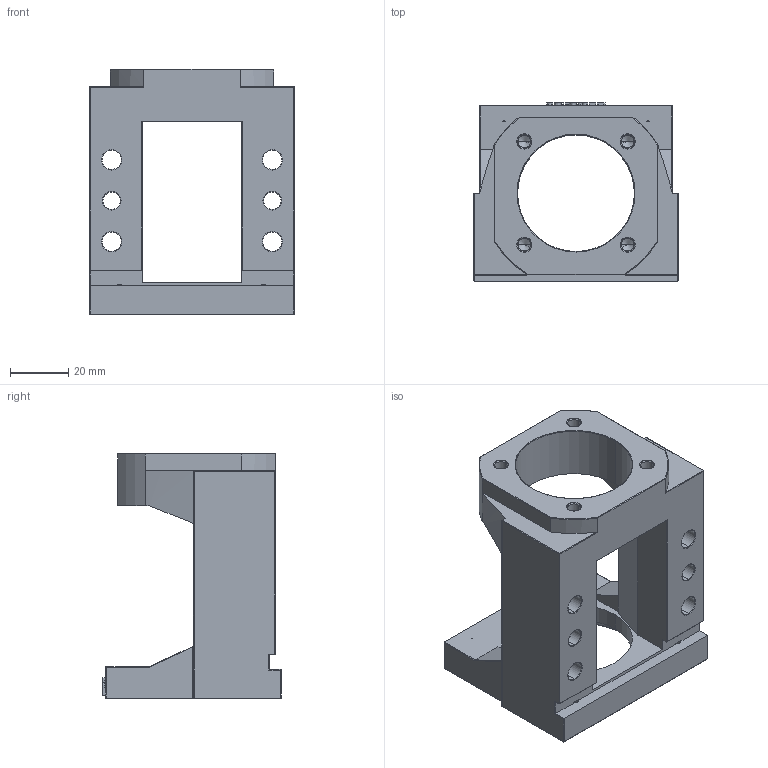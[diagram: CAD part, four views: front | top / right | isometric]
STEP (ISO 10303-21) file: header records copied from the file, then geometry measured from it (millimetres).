
FILE_DESCRIPTION((''),'2;1');
FILE_NAME('M60DP-FK15-A','2020-11-11T',('Administrator'),(''),'PRO/ENGINEER BY PARAMETRIC TECHNOLOGY CORPORATION, 2010280','PRO/ENGINEER BY PARAMETRIC TECHNOLOGY CORPORATION, 2010280','');
FILE_SCHEMA(('CONFIG_CONTROL_DESIGN'));
Length unit declared in the file: millimetre
Products named in the file (1): M60DP-FK15-A
Bounding box: 70 x 61 x 84 mm (x, y, z)
Volume: 108691.2 mm3; surface area: 33228.3 mm2
Topology: 1 solids, 1 shells, 371 faces, 934 edges, 559 vertices
Faces by surface type: plane 114, cylinder 97, torus 70, extrusion 44, cone 32, sphere 12, bspline 2
Entity records: 11730 total; most frequent: CARTESIAN_POINT 2905, ORIENTED_EDGE 1820, DIRECTION 1807, EDGE_CURVE 910, AXIS2_PLACEMENT_3D 650, VERTEX_POINT 559, VECTOR 507, LINE 463
